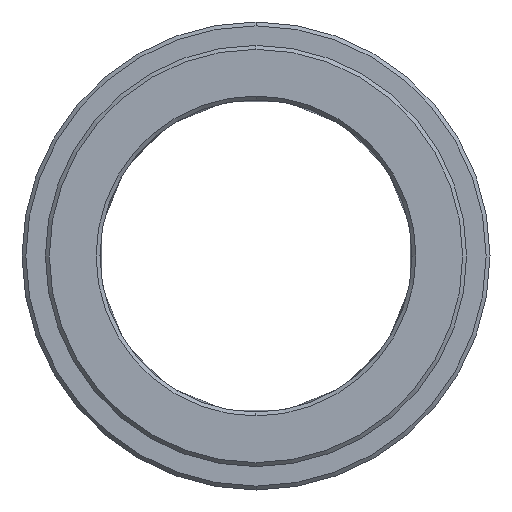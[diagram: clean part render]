
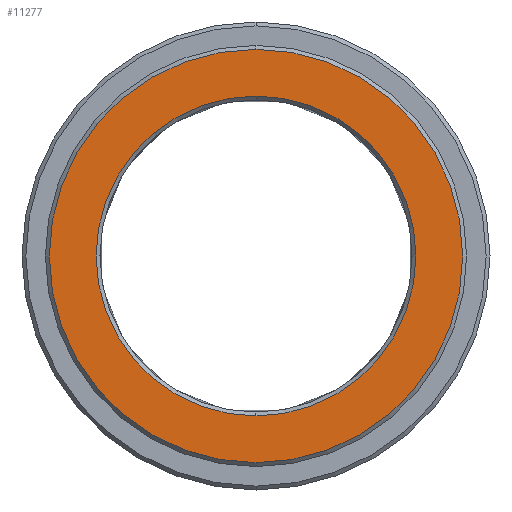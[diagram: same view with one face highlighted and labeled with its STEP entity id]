
A CAD part, left-side view. The second image highlights one B-rep face of the part: STEP entity #11277.
In plain terms, the highlighted planar face has unit normal (-1, 0, 0).
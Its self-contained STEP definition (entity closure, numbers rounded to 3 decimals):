
#7754=CARTESIAN_POINT('',(-10.,0.,
0.));
#7755=DIRECTION('',(1.,0.,0.));
#7756=DIRECTION('',(0.,0.,1.));
#7757=AXIS2_PLACEMENT_3D('',#7754,#7755,#7756);
#7759=CARTESIAN_POINT('',(-10.,0.,0.));
#7760=DIRECTION('',(1.,0.,0.));
#7761=DIRECTION('',(0.,0.,-1.));
#7762=AXIS2_PLACEMENT_3D('',#7759,#7760,#7761);
#7764=CARTESIAN_POINT('',(-10.,0.,0.));
#7765=DIRECTION('',(1.,0.,0.));
#7766=DIRECTION('',(0.,0.,1.));
#7767=AXIS2_PLACEMENT_3D('',#7764,#7765,#7766);
#7769=CARTESIAN_POINT('',(-10.,0.,
0.));
#7770=DIRECTION('',(1.,0.,0.));
#7771=DIRECTION('',(0.,0.,-1.));
#7772=AXIS2_PLACEMENT_3D('',#7769,#7770,#7771);
#8222=CARTESIAN_POINT('',(-10.,0.,20.5));
#8223=CARTESIAN_POINT('',(-10.,0.,-20.5));
#8224=VERTEX_POINT('',#8222);
#8225=VERTEX_POINT('',#8223);
#8230=CARTESIAN_POINT('',(-10.,0.,26.5));
#8231=CARTESIAN_POINT('',(-10.,0.,
-26.5));
#8232=VERTEX_POINT('',#8230);
#8233=VERTEX_POINT('',#8231);
#11262=CARTESIAN_POINT('',(-10.,0.,0.));
#11263=DIRECTION('',(1.,0.,0.));
#11264=DIRECTION('',(0.,0.,1.));
#11265=AXIS2_PLACEMENT_3D('',#11262,#11263,#11264);
#11266=PLANE('',#11265);
#11267=ORIENTED_EDGE('',*,*,#11229,.T.);
#11268=ORIENTED_EDGE('',*,*,#11244,.T.);
#11269=EDGE_LOOP('',(#11267,#11268));
#11270=FACE_OUTER_BOUND('',#11269,.F.);
#11272=ORIENTED_EDGE('',*,*,#11271,.F.);
#11274=ORIENTED_EDGE('',*,*,#11273,.F.);
#11275=EDGE_LOOP('',(#11272,#11274));
#11276=FACE_BOUND('',#11275,.F.);
#11277=ADVANCED_FACE('',(#11270,#11276),#11266,.F.);
#7758=CIRCLE('',#7757,26.5);
#7763=CIRCLE('',#7762,26.5);
#7768=CIRCLE('',#7767,20.5);
#7773=CIRCLE('',#7772,20.5);
#11229=EDGE_CURVE('',#8232,#8233,#7758,.T.);
#11244=EDGE_CURVE('',#8233,#8232,#7763,.T.);
#11271=EDGE_CURVE('',#8224,#8225,#7768,.T.);
#11273=EDGE_CURVE('',#8225,#8224,#7773,.T.);
